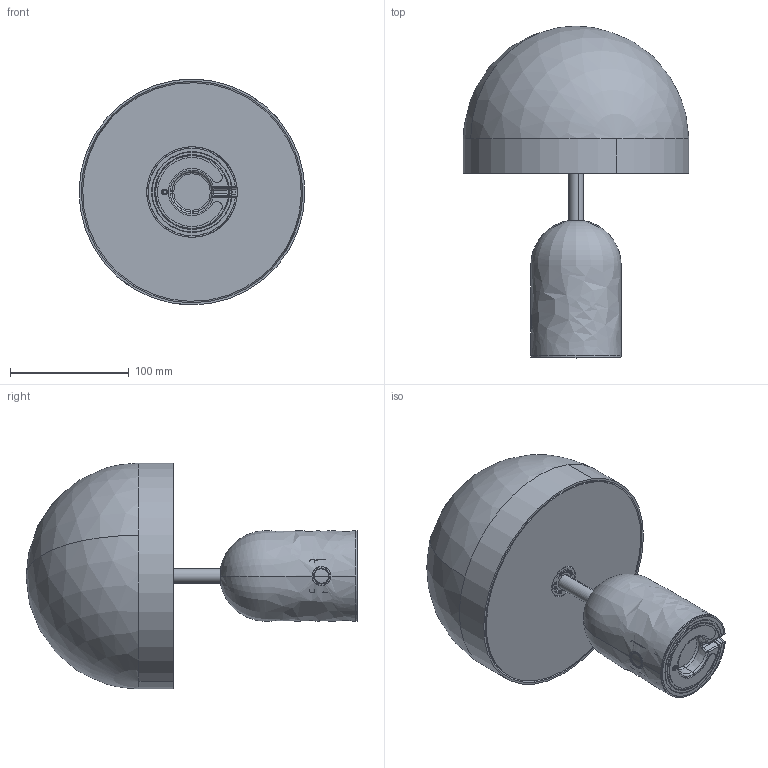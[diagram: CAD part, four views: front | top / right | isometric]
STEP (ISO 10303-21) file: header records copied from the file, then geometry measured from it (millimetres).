
FILE_DESCRIPTION (( 'STEP AP203' ), '1' );
FILE_NAME ('Bell Portable LED.STEP', '2023-06-22T14:06:03', ( '' ), ( '' ), 'SwSTEP 2.0', 'SolidWorks 2022', '' );
FILE_SCHEMA (( 'CONFIG_CONTROL_DESIGN' ));
Length unit declared in the file: millimetre
Products named in the file (1): Bell Portable LED
Bounding box: 189.96 x 279.2 x 189.96 mm (x, y, z)
Volume: 310079.4 mm3; surface area: 338694.1 mm2
Topology: 11 solids, 11 shells, 769 faces, 2003 edges, 1281 vertices
Faces by surface type: plane 321, cylinder 174, bspline 110, cone 97, torus 63, sphere 4
Entity records: 31563 total; most frequent: CARTESIAN_POINT 13525, ORIENTED_EDGE 3978, DIRECTION 3441, EDGE_CURVE 1989, AXIS2_PLACEMENT_3D 1316, VERTEX_POINT 1281, EDGE_LOOP 848, VECTOR 809
